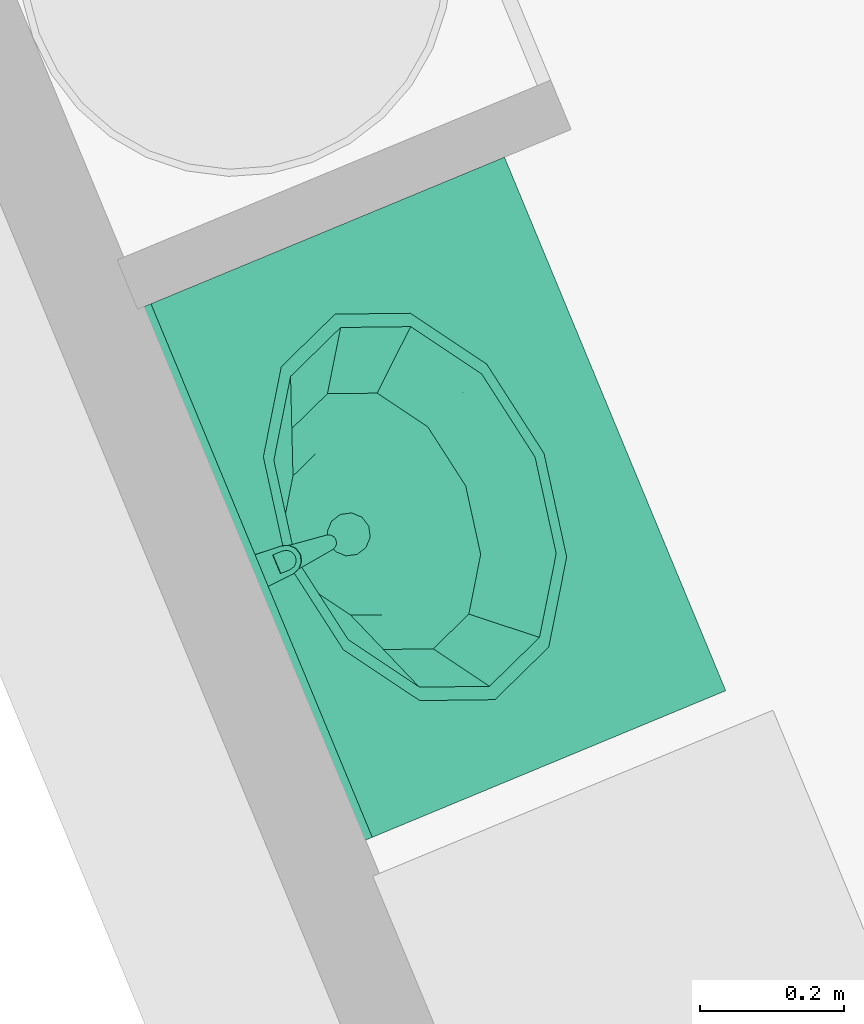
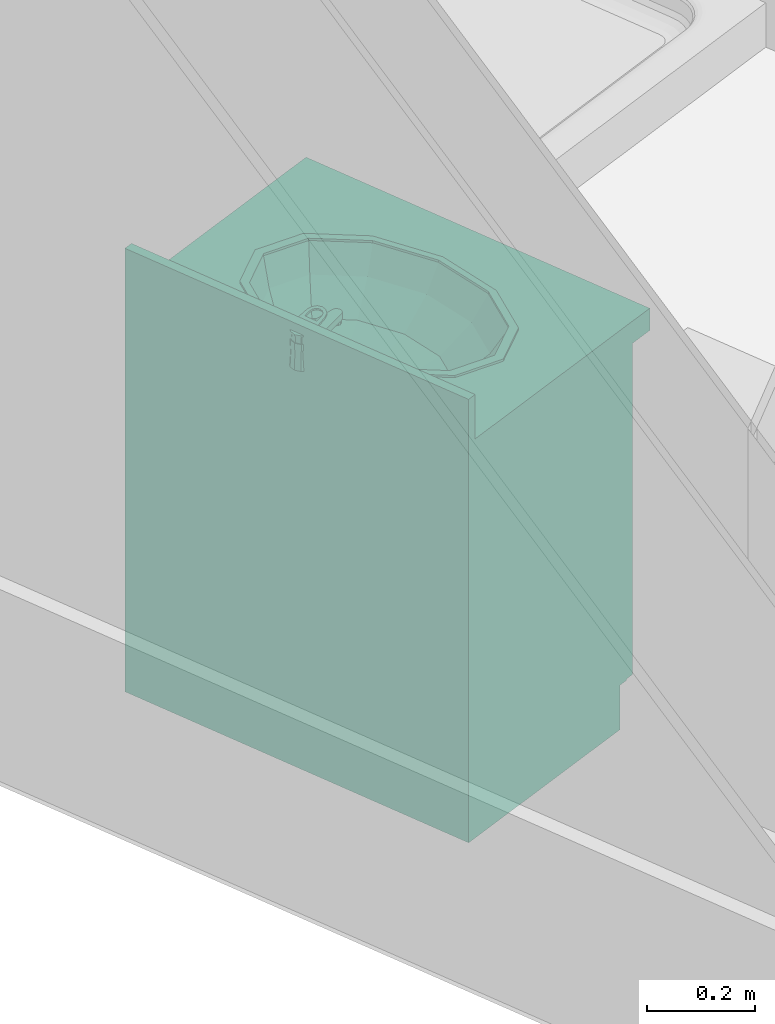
# One storey, part 80 of 119: 1 flow terminal.
"""IFC2X3 building model written with IfcOpenShell, lengths in metres."""

from ifc_helpers import new_model, entity, si_unit, converted_unit, derived_unit, money_unit, direction, frame, origin_with_axes, place, context, subcontext, project, spatial, open_shell, faceted_brep, surface_model, source, transform, mapped, type_object, element, save


model = new_model("IFC2X3")

# Units and contexts
model_context = context("Model", 3, precision=1e-05, world=origin_with_axes(), true_north=direction((0.0, 1.0)))
body_context = subcontext(model_context, "Body", "Model", "MODEL_VIEW")
ifc_project = project(units=[si_unit("LENGTHUNIT", "METRE"), si_unit("AREAUNIT", "SQUARE_METRE"), si_unit("VOLUMEUNIT", "CUBIC_METRE"), converted_unit("PLANEANGLEUNIT", "DEGREE", entity("IfcPlaneAngleMeasure", 0.0174532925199), si_unit("PLANEANGLEUNIT", "RADIAN"), dimensions=[0, 0, 0, 0, 0, 0, 0]), si_unit("SOLIDANGLEUNIT", "STERADIAN"), money_unit("EUR"), converted_unit("TIMEUNIT", "Year", entity("IfcTimeMeasure", 31556926.0), si_unit("TIMEUNIT", "SECOND"), dimensions=[0, 0, 1, 0, 0, 0, 0]), si_unit("MASSUNIT", "GRAM", prefix="KILO"), si_unit("THERMODYNAMICTEMPERATUREUNIT", "DEGREE_CELSIUS"), si_unit("LUMINOUSINTENSITYUNIT", "LUMEN"), si_unit("ENERGYUNIT", "JOULE", prefix="MEGA"), derived_unit("THERMALCONDUCTANCEUNIT", [(si_unit("POWERUNIT", "WATT"), 1), (si_unit("LENGTHUNIT", "METRE"), -1), (si_unit("THERMODYNAMICTEMPERATUREUNIT", "KELVIN"), -1)]), derived_unit("SPECIFICHEATCAPACITYUNIT", [(si_unit("ENERGYUNIT", "JOULE"), 1), (si_unit("MASSUNIT", "GRAM", prefix="KILO"), -1), (si_unit("THERMODYNAMICTEMPERATUREUNIT", "KELVIN"), -1)]), derived_unit("MASSDENSITYUNIT", [(si_unit("MASSUNIT", "GRAM", prefix="KILO"), 1), (si_unit("VOLUMEUNIT", "CUBIC_METRE"), -1)])], contexts=[model_context])

# Site, building, storey
site_placement = place(None, origin_with_axes())
site = spatial("IfcSite", under=ifc_project, at=site_placement, Name="Site", CompositionType="ELEMENT")
building_placement = place(site_placement, origin_with_axes())
building = spatial("IfcBuilding", under=site, at=building_placement, Name="Bâtiment", CompositionType="ELEMENT")
storey_placement = place(building_placement, origin_with_axes())
storey = spatial("IfcBuildingStorey", under=building, at=storey_placement, Name="Rez-de-chaussée", CompositionType="ELEMENT", Elevation=0.0)

# Flow terminal
sanitary_terminal_type = type_object("IfcSanitaryTerminalType", Name="Lavabo sur meuble 23", PredefinedType="NOTDEFINED")
shared_shape = source(origin_with_axes(), body_context, "Body", "SurfaceModel", [
    faceted_brep([(0.0, 0.09, 0.0), (0.8, 0.09, 0.0), (0.8, 0.09, 0.1), (0.0, 0.09, 0.1), (0.0, 0.55, 0.0), (0.8, 0.55, 0.0), (0.8, 0.55, 0.1), (0.0, 0.55, 0.1)], [[[0, 1, 2, 3]], [[0, 4, 5, 1]], [[1, 5, 6, 2]], [[3, 2, 6, 7]], [[4, 0, 3, 7]], [[5, 4, 7, 6]]]),
    faceted_brep([(0.0, 0.07, 0.1), (0.02, 0.07, 0.1), (0.02, 0.07, 0.12), (0.0, 0.07, 0.12), (0.0, 0.55, 0.1), (0.02, 0.55, 0.1), (0.78, 0.55, 0.1), (0.8, 0.55, 0.1), (0.8, 0.07, 0.1), (0.78, 0.07, 0.1), (0.78, 0.07, 0.12), (0.8, 0.07, 0.12), (0.8, 0.55, 0.12), (0.78, 0.55, 0.12), (0.02, 0.55, 0.12), (0.0, 0.55, 0.12)], [[[0, 1, 2, 3]], [[0, 4, 5, 6, 7, 8, 9, 1]], [[1, 9, 10, 2]], [[3, 2, 10, 11, 12, 13, 14, 15]], [[4, 0, 3, 15]], [[5, 4, 15, 14]], [[6, 5, 14, 13]], [[7, 6, 13, 12]], [[8, 7, 12, 11]], [[9, 8, 11, 10]]]),
    faceted_brep([(0.0, 0.07, 0.12), (0.02, 0.07, 0.12), (0.02, 0.07, 0.85), (0.0, 0.07, 0.85), (0.0, 0.55, 0.12), (0.8, 0.55, 0.12), (0.8, 0.07, 0.12), (0.78, 0.07, 0.12), (0.78, 0.53, 0.12), (0.02, 0.53, 0.12), (0.02, 0.53, 0.85), (0.78, 0.53, 0.85), (0.78, 0.07, 0.85), (0.8, 0.07, 0.85), (0.8, 0.55, 0.85), (0.0, 0.55, 0.85)], [[[0, 1, 2, 3]], [[0, 4, 5, 6, 7, 8, 9, 1]], [[1, 9, 10, 2]], [[3, 2, 10, 11, 12, 13, 14, 15]], [[4, 0, 3, 15]], [[5, 4, 15, 14]], [[6, 5, 14, 13]], [[7, 6, 13, 12]], [[8, 7, 12, 11]], [[9, 8, 11, 10]]]),
    faceted_brep([(0.78, 0.07, 0.323333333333), (0.78, 0.53, 0.323333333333), (0.78, 0.53, 0.343333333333), (0.78, 0.07, 0.343333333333), (0.02, 0.07, 0.323333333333), (0.02, 0.53, 0.323333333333), (0.02, 0.53, 0.343333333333), (0.02, 0.07, 0.343333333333)], [[[0, 1, 2, 3]], [[0, 4, 5, 1]], [[1, 5, 6, 2]], [[3, 2, 6, 7]], [[4, 0, 3, 7]], [[5, 4, 7, 6]]]),
    faceted_brep([(0.78, 0.07, 0.566666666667), (0.78, 0.53, 0.566666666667), (0.78, 0.53, 0.586666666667), (0.78, 0.07, 0.586666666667), (0.02, 0.07, 0.566666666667), (0.02, 0.53, 0.566666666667), (0.02, 0.53, 0.586666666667), (0.02, 0.07, 0.586666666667)], [[[0, 1, 2, 3]], [[0, 4, 5, 1]], [[1, 5, 6, 2]], [[3, 2, 6, 7]], [[4, 0, 3, 7]], [[5, 4, 7, 6]]]),
    faceted_brep([(0.0, 0.55, 0.85), (0.8, 0.55, 0.85), (0.8, 0.0, 0.85), (0.0, 0.0, 0.85), (0.535, 0.144115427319, 0.85), (0.633826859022, 0.21, 0.85), (0.67, 0.3, 0.85), (0.633826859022, 0.39, 0.85), (0.535, 0.455884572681, 0.85), (0.4, 0.48, 0.85), (0.265, 0.455884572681, 0.85), (0.166173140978, 0.39, 0.85), (0.13, 0.3, 0.85), (0.166173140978, 0.21, 0.85), (0.265, 0.144115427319, 0.85), (0.4, 0.12, 0.85), (0.0, 0.55, 0.9), (0.8, 0.55, 0.9), (0.8, 0.0, 0.9), (0.0, 0.0, 0.9), (0.535, 0.144115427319, 0.9), (0.633826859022, 0.21, 0.9), (0.67, 0.3, 0.9), (0.633826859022, 0.39, 0.9), (0.535, 0.455884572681, 0.9), (0.4, 0.48, 0.9), (0.265, 0.455884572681, 0.9), (0.166173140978, 0.39, 0.9), (0.13, 0.3, 0.9), (0.166173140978, 0.21, 0.9), (0.265, 0.144115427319, 0.9), (0.4, 0.12, 0.9)], [[[0, 1, 2, 3], [4, 5, 6, 7, 8, 9, 10, 11, 12, 13, 14, 15]], [[0, 16, 17, 1]], [[1, 17, 18, 2]], [[2, 18, 19, 3]], [[3, 19, 16, 0]], [[20, 21, 5, 4]], [[21, 22, 6, 5]], [[22, 23, 7, 6]], [[23, 24, 8, 7]], [[24, 25, 9, 8]], [[25, 26, 10, 9]], [[26, 27, 11, 10]], [[27, 28, 12, 11]], [[28, 29, 13, 12]], [[29, 30, 14, 13]], [[30, 31, 15, 14]], [[31, 20, 4, 15]], [[18, 17, 16, 19], [24, 23, 22, 21, 20, 31, 30, 29, 28, 27, 26, 25]]]),
    faceted_brep([(0.0, 0.53, 0.9), (0.8, 0.53, 0.9), (0.8, 0.53, 1.0), (0.0, 0.53, 1.0), (0.0, 0.55, 0.9), (0.8, 0.55, 0.9), (0.8, 0.55, 1.0), (0.0, 0.55, 1.0)], [[[0, 1, 2, 3]], [[0, 4, 5, 1]], [[1, 5, 6, 2]], [[3, 2, 6, 7]], [[4, 0, 3, 7]], [[5, 4, 7, 6]]]),
    faceted_brep([(0.689, 0.3, 0.905), (0.689, 0.3, 0.9), (0.650281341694, 0.396691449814, 0.9), (0.650281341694, 0.396691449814, 0.905), (0.650281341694, 0.203308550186, 0.905), (0.650281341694, 0.203308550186, 0.9), (0.5445, 0.132525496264, 0.9), (0.4, 0.106617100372, 0.9), (0.2555, 0.132525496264, 0.9), (0.149718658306, 0.203308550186, 0.9), (0.111, 0.3, 0.9), (0.149718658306, 0.396691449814, 0.9), (0.2555, 0.467474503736, 0.9), (0.4, 0.493382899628, 0.9), (0.5445, 0.467474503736, 0.9), (0.669, 0.3, 0.9), (0.632960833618, 0.39, 0.9), (0.5345, 0.455884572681, 0.9), (0.4, 0.48, 0.9), (0.2655, 0.455884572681, 0.9), (0.167039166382, 0.39, 0.9), (0.131, 0.3, 0.9), (0.167039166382, 0.21, 0.9), (0.2655, 0.144115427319, 0.9), (0.4, 0.12, 0.9), (0.5345, 0.144115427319, 0.9), (0.632960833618, 0.21, 0.9), (0.5445, 0.467474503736, 0.905), (0.4, 0.493382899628, 0.905), (0.2555, 0.467474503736, 0.905), (0.149718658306, 0.396691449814, 0.905), (0.111, 0.3, 0.905), (0.149718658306, 0.203308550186, 0.905), (0.2555, 0.132525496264, 0.905), (0.4, 0.106617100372, 0.905), (0.5445, 0.132525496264, 0.905), (0.669, 0.3, 0.905), (0.632960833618, 0.21, 0.905), (0.5345, 0.144115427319, 0.905), (0.4, 0.12, 0.905), (0.2655, 0.144115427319, 0.905), (0.167039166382, 0.21, 0.905), (0.131, 0.3, 0.905), (0.167039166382, 0.39, 0.905), (0.2655, 0.455884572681, 0.905), (0.4, 0.48, 0.905), (0.5345, 0.455884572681, 0.905), (0.632960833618, 0.39, 0.905)], [[[0, 1, 2, 3]], [[4, 5, 1, 0]], [[1, 5, 6, 7, 8, 9, 10, 11, 12, 13, 14, 2], [15, 16, 17, 18, 19, 20, 21, 22, 23, 24, 25, 26]], [[3, 2, 14, 27]], [[0, 3, 27, 28, 29, 30, 31, 32, 33, 34, 35, 4], [36, 37, 38, 39, 40, 41, 42, 43, 44, 45, 46, 47]], [[35, 6, 5, 4]], [[34, 7, 6, 35]], [[33, 8, 7, 34]], [[32, 9, 8, 33]], [[31, 10, 9, 32]], [[30, 11, 10, 31]], [[29, 12, 11, 30]], [[28, 13, 12, 29]], [[27, 14, 13, 28]], [[47, 16, 15, 36]], [[46, 17, 16, 47]], [[45, 18, 17, 46]], [[44, 19, 18, 45]], [[43, 20, 19, 44]], [[42, 21, 20, 43]], [[41, 22, 21, 42]], [[40, 23, 22, 41]], [[39, 24, 23, 40]], [[38, 25, 24, 39]], [[37, 26, 25, 38]], [[36, 15, 26, 37]]]),
    surface_model("IfcShellBasedSurfaceModel", [(0.4, 0.48, 0.9), (0.4, 0.48, 0.848), (0.52105, 0.458296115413, 0.848), (0.5345, 0.455884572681, 0.9), (0.2655, 0.455884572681, 0.9), (0.27895, 0.458296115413, 0.848), (0.609664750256, 0.399, 0.848), (0.632960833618, 0.39, 0.9), (0.167039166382, 0.39, 0.9), (0.190335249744, 0.399, 0.848), (0.6421, 0.318, 0.848), (0.669, 0.3, 0.9), (0.131, 0.3, 0.9), (0.1579, 0.318, 0.848), (0.609664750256, 0.237, 0.848), (0.632960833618, 0.21, 0.9), (0.167039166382, 0.21, 0.9), (0.190335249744, 0.237, 0.848), (0.52105, 0.177703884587, 0.848), (0.5345, 0.144115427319, 0.9), (0.2655, 0.144115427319, 0.9), (0.27895, 0.177703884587, 0.848), (0.4, 0.156, 0.848), (0.4, 0.12, 0.9)], [open_shell([[[0, 1, 2, 3]], [[4, 5, 1, 0]], [[3, 2, 6, 7]], [[8, 9, 5, 4]], [[7, 6, 10, 11]], [[12, 13, 9, 8]], [[11, 10, 14, 15]], [[16, 17, 13, 12]], [[15, 14, 18, 19]], [[20, 21, 17, 16]], [[19, 18, 22, 23]], [[23, 22, 21, 20]]])]),
    surface_model("IfcShellBasedSurfaceModel", [(0.4, 0.48, 0.848), (0.4, 0.48, 0.796), (0.4956295, 0.462853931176, 0.796), (0.52105, 0.458296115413, 0.848), (0.27895, 0.458296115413, 0.848), (0.3043705, 0.462853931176, 0.796), (0.565635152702, 0.41601, 0.796), (0.609664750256, 0.399, 0.848), (0.190335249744, 0.399, 0.848), (0.234364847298, 0.41601, 0.796), (0.591259, 0.35202, 0.796), (0.6421, 0.318, 0.848), (0.1579, 0.318, 0.848), (0.208741, 0.35202, 0.796), (0.565635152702, 0.28803, 0.796), (0.609664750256, 0.237, 0.848), (0.190335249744, 0.237, 0.848), (0.234364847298, 0.28803, 0.796), (0.4956295, 0.241186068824, 0.796), (0.52105, 0.177703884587, 0.848), (0.27895, 0.177703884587, 0.848), (0.3043705, 0.241186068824, 0.796), (0.4, 0.22404, 0.796), (0.4, 0.156, 0.848)], [open_shell([[[0, 1, 2, 3]], [[4, 5, 1, 0]], [[3, 2, 6, 7]], [[8, 9, 5, 4]], [[7, 6, 10, 11]], [[12, 13, 9, 8]], [[11, 10, 14, 15]], [[16, 17, 13, 12]], [[15, 14, 18, 19]], [[20, 21, 17, 16]], [[19, 18, 22, 23]], [[23, 22, 21, 20]]])]),
    surface_model("IfcShellBasedSurfaceModel", [(0.4, 0.48, 0.796), (0.4, 0.48, 0.77), (0.460246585, 0.469197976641, 0.77), (0.4956295, 0.462853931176, 0.796), (0.3043705, 0.462853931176, 0.796), (0.339753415, 0.469197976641, 0.77), (0.504350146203, 0.4396863, 0.77), (0.565635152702, 0.41601, 0.796), (0.234364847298, 0.41601, 0.796), (0.295649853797, 0.4396863, 0.77), (0.52049317, 0.3993726, 0.77), (0.591259, 0.35202, 0.796), (0.208741, 0.35202, 0.796), (0.27950683, 0.3993726, 0.77), (0.504350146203, 0.3590589, 0.77), (0.565635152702, 0.28803, 0.796), (0.234364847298, 0.28803, 0.796), (0.295649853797, 0.3590589, 0.77), (0.460246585, 0.329547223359, 0.77), (0.4956295, 0.241186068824, 0.796), (0.3043705, 0.241186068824, 0.796), (0.339753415, 0.329547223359, 0.77), (0.4, 0.3187452, 0.77), (0.4, 0.22404, 0.796)], [open_shell([[[0, 1, 2, 3]], [[4, 5, 1, 0]], [[3, 2, 6, 7]], [[8, 9, 5, 4]], [[7, 6, 10, 11]], [[12, 13, 9, 8]], [[11, 10, 14, 15]], [[16, 17, 13, 12]], [[15, 14, 18, 19]], [[20, 21, 17, 16]], [[19, 18, 22, 23]], [[23, 22, 21, 20]]])]),
    surface_model("IfcShellBasedSurfaceModel", [(0.4, 0.48, 0.77), (0.415, 0.425353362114, 0.763), (0.460246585, 0.469197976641, 0.77), (0.4, 0.4293726, 0.763), (0.425980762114, 0.4143726, 0.763), (0.339753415, 0.469197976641, 0.77), (0.504350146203, 0.4396863, 0.77), (0.385, 0.425353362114, 0.763), (0.43, 0.3993726, 0.763), (0.295649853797, 0.4396863, 0.77), (0.52049317, 0.3993726, 0.77), (0.374019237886, 0.4143726, 0.763), (0.425980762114, 0.3843726, 0.763), (0.27950683, 0.3993726, 0.77), (0.504350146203, 0.3590589, 0.77), (0.37, 0.3993726, 0.763), (0.415, 0.373391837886, 0.763), (0.295649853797, 0.3590589, 0.77), (0.460246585, 0.329547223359, 0.77), (0.374019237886, 0.3843726, 0.763), (0.4, 0.3693726, 0.763), (0.339753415, 0.329547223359, 0.77), (0.4, 0.3187452, 0.77), (0.385, 0.373391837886, 0.763)], [open_shell([[[0, 1, 2]], [[0, 3, 1]], [[2, 1, 4]], [[5, 3, 0]], [[2, 4, 6]], [[5, 7, 3]], [[6, 4, 8]], [[9, 7, 5]], [[6, 8, 10]], [[9, 11, 7]], [[10, 8, 12]], [[13, 11, 9]], [[10, 12, 14]], [[13, 15, 11]], [[14, 12, 16]], [[17, 15, 13]], [[14, 16, 18]], [[17, 19, 15]], [[18, 16, 20]], [[21, 19, 17]], [[18, 20, 22]], [[21, 23, 19]], [[22, 20, 23]], [[22, 23, 21]]])]),
    surface_model("IfcShellBasedSurfaceModel", [(0.43, 0.3993726, 0.763), (0.43, 0.3993726, 0.758), (0.425980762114, 0.4143726, 0.758), (0.425980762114, 0.4143726, 0.763), (0.425980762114, 0.3843726, 0.763), (0.425980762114, 0.3843726, 0.758), (0.415, 0.373391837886, 0.758), (0.4, 0.3693726, 0.758), (0.385, 0.373391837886, 0.758), (0.374019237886, 0.3843726, 0.758), (0.37, 0.3993726, 0.758), (0.374019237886, 0.4143726, 0.758), (0.385, 0.425353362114, 0.758), (0.4, 0.4293726, 0.758), (0.415, 0.425353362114, 0.758), (0.415, 0.425353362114, 0.763), (0.415, 0.373391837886, 0.763), (0.4, 0.3693726, 0.763), (0.385, 0.373391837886, 0.763), (0.374019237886, 0.3843726, 0.763), (0.37, 0.3993726, 0.763), (0.374019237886, 0.4143726, 0.763), (0.385, 0.425353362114, 0.763), (0.4, 0.4293726, 0.763)], [open_shell([[[0, 1, 2, 3]], [[4, 5, 1, 0]], [[1, 5, 6, 7, 8, 9, 10, 11, 12, 13, 14, 2]], [[3, 2, 14, 15]], [[16, 6, 5, 4]], [[17, 7, 6, 16]], [[18, 8, 7, 17]], [[19, 9, 8, 18]], [[20, 10, 9, 19]], [[21, 11, 10, 20]], [[22, 12, 11, 21]], [[23, 13, 12, 22]], [[15, 14, 13, 23]]])]),
    faceted_brep([(0.4125, 0.554150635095, 0.9), (0.4, 0.5575, 0.9), (0.4, 0.553701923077, 0.975961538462), (0.410587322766, 0.550837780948, 0.976507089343), (0.421650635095, 0.545, 0.9), (0.425, 0.5325, 0.9), (0.421650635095, 0.52, 0.9), (0.4125, 0.510849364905, 0.9), (0.4, 0.5075, 0.9), (0.3875, 0.510849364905, 0.9), (0.378349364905, 0.52, 0.9), (0.375, 0.5325, 0.9), (0.378349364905, 0.545, 0.9), (0.3875, 0.554150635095, 0.9), (0.389412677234, 0.550837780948, 0.976507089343), (0.381726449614, 0.543050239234, 0.977990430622), (0.379, 0.5325, 0.98), (0.381899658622, 0.522049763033, 0.981990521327), (0.389585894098, 0.514462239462, 0.983435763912), (0.4, 0.511698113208, 0.983962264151), (0.410414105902, 0.514462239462, 0.983435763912), (0.418100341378, 0.522049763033, 0.981990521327), (0.421, 0.5325, 0.98), (0.418273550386, 0.543050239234, 0.977990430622)], [[[0, 1, 2, 3]], [[0, 4, 5, 6, 7, 8, 9, 10, 11, 12, 13, 1]], [[1, 13, 14, 2]], [[3, 2, 14, 15, 16, 17, 18, 19, 20, 21, 22, 23]], [[4, 0, 3, 23]], [[5, 4, 23, 22]], [[6, 5, 22, 21]], [[7, 6, 21, 20]], [[8, 7, 20, 19]], [[9, 8, 19, 18]], [[10, 9, 18, 17]], [[11, 10, 17, 16]], [[12, 11, 16, 15]], [[13, 12, 15, 14]]]),
    faceted_brep([(0.409, 0.4295, 0.935), (0.407794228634, 0.434, 0.935), (0.407794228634, 0.434, 0.945), (0.409, 0.4295, 0.945), (0.407794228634, 0.425, 0.935), (0.4045, 0.421705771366, 0.935), (0.4, 0.4205, 0.935), (0.3955, 0.421705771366, 0.935), (0.392205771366, 0.425, 0.935), (0.391, 0.4295, 0.935), (0.392205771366, 0.434, 0.935), (0.3955, 0.437294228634, 0.935), (0.4, 0.4385, 0.935), (0.4045, 0.437294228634, 0.935), (0.4045, 0.437294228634, 0.945), (0.4, 0.4385, 0.945), (0.3955, 0.437294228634, 0.945), (0.392205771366, 0.434, 0.945), (0.391, 0.4295, 0.945), (0.392205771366, 0.425, 0.945), (0.3955, 0.421705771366, 0.945), (0.4, 0.4205, 0.945), (0.4045, 0.421705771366, 0.945), (0.407794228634, 0.425, 0.945)], [[[0, 1, 2, 3]], [[0, 4, 5, 6, 7, 8, 9, 10, 11, 12, 13, 1]], [[1, 13, 14, 2]], [[3, 2, 14, 15, 16, 17, 18, 19, 20, 21, 22, 23]], [[4, 0, 3, 23]], [[5, 4, 23, 22]], [[6, 5, 22, 21]], [[7, 6, 21, 20]], [[8, 7, 20, 19]], [[9, 8, 19, 18]], [[10, 9, 18, 17]], [[11, 10, 17, 16]], [[12, 11, 16, 15]], [[13, 12, 15, 14]]]),
    faceted_brep([(0.387128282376, 0.552756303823, 0.96), (0.378272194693, 0.54269320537, 0.96), (0.3761946, 0.5294501, 0.96), (0.389088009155, 0.428111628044, 0.96), (0.390971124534, 0.423216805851, 0.96), (0.394906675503, 0.419750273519, 0.96), (0.400000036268, 0.41850003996, 0.96), (0.405093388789, 0.419750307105, 0.96), (0.409028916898, 0.423216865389, 0.96), (0.410912, 0.4281117, 0.96), (0.423805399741, 0.529450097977, 0.96), (0.421727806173, 0.542693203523, 0.96), (0.412871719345, 0.552756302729, 0.96), (0.40000000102, 0.556499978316, 0.96), (0.411, 0.551552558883, 0.96), (0.419052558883, 0.5435, 0.96), (0.422, 0.5325, 0.96), (0.419052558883, 0.5215, 0.96), (0.411, 0.513447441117, 0.96), (0.4, 0.5105, 0.96), (0.389, 0.513447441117, 0.96), (0.380947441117, 0.5215, 0.96), (0.378, 0.5325, 0.96), (0.380947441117, 0.5435, 0.96), (0.389, 0.551552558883, 0.96), (0.4, 0.5545, 0.96), (0.378272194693, 0.54269320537, 0.945), (0.387128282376, 0.552756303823, 0.945), (0.3761946, 0.5294501, 0.945), (0.389088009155, 0.428111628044, 0.945), (0.390971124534, 0.423216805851, 0.945), (0.394906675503, 0.419750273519, 0.945), (0.400000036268, 0.41850003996, 0.945), (0.405093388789, 0.419750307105, 0.945), (0.409028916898, 0.423216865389, 0.945), (0.410912, 0.4281117, 0.945), (0.423805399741, 0.529450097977, 0.945), (0.421727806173, 0.542693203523, 0.945), (0.412871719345, 0.552756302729, 0.945), (0.40000000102, 0.556499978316, 0.945), (0.411375, 0.552202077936, 0.945), (0.419702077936, 0.543875, 0.945), (0.42275, 0.5325, 0.945), (0.419702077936, 0.521125, 0.945), (0.411375, 0.512797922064, 0.945), (0.4, 0.50975, 0.945), (0.388625, 0.512797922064, 0.945), (0.380297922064, 0.521125, 0.945), (0.37725, 0.5325, 0.945), (0.380297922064, 0.543875, 0.945), (0.388625, 0.552202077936, 0.945), (0.4, 0.55525, 0.945)], [[[0, 1, 2, 3, 4, 5, 6, 7, 8, 9, 10, 11, 12, 13], [14, 15, 16, 17, 18, 19, 20, 21, 22, 23, 24, 25]], [[26, 1, 0, 27]], [[28, 2, 1, 26]], [[29, 3, 2, 28]], [[30, 4, 3, 29]], [[31, 5, 4, 30]], [[32, 6, 5, 31]], [[33, 7, 6, 32]], [[34, 8, 7, 33]], [[35, 9, 8, 34]], [[36, 10, 9, 35]], [[37, 11, 10, 36]], [[38, 12, 11, 37]], [[39, 13, 12, 38]], [[27, 0, 13, 39]], [[40, 41, 15, 14]], [[41, 42, 16, 15]], [[42, 43, 17, 16]], [[43, 44, 18, 17]], [[44, 45, 19, 18]], [[20, 19, 45, 46]], [[21, 20, 46, 47]], [[22, 21, 47, 48]], [[23, 22, 48, 49]], [[24, 23, 49, 50]], [[50, 51, 25, 24]], [[51, 40, 14, 25]], [[32, 31, 30, 29, 28, 26, 27, 39, 38, 37, 36, 35, 34, 33], [44, 43, 42, 41, 40, 51, 50, 49, 48, 47, 46, 45]]]),
    faceted_brep([(0.423893, 0.53080743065, 0.980322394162), (0.421296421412, 0.543274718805, 0.977947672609), (0.421296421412, 0.544023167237, 0.981877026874), (0.423893, 0.531555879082, 0.984251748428), (0.420945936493, 0.490663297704, 0.987968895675), (0.417663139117, 0.480985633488, 0.989812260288), (0.410061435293, 0.474036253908, 0.991135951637), (0.399999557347, 0.47151438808, 0.991616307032), (0.389937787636, 0.474036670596, 0.991135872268), (0.382336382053, 0.480986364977, 0.989812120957), (0.379054, 0.490664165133, 0.987968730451), (0.376106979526, 0.530807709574, 0.980322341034), (0.378703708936, 0.543274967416, 0.977947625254), (0.38752831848, 0.552591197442, 0.976173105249), (0.400000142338, 0.556031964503, 0.975517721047), (0.41247192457, 0.552591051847, 0.976173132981), (0.414, 0.506959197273, 0.984864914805), (0.386, 0.506959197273, 0.984864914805), (0.386, 0.492143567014, 0.987686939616), (0.387875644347, 0.485267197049, 0.988996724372), (0.393, 0.480233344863, 0.989955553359), (0.4, 0.478390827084, 0.990306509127), (0.407, 0.480233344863, 0.989955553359), (0.412124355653, 0.485267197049, 0.988996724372), (0.414, 0.492143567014, 0.987686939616), (0.41247192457, 0.553339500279, 0.980102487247), (0.400000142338, 0.556780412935, 0.979447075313), (0.38752831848, 0.553339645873, 0.980102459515), (0.378703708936, 0.544023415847, 0.98187697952), (0.376106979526, 0.531556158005, 0.984251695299), (0.379054, 0.491412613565, 0.991898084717), (0.382336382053, 0.481734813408, 0.993741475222), (0.389937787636, 0.474785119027, 0.995065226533), (0.399999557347, 0.472262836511, 0.995545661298), (0.410061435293, 0.47478470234, 0.995065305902), (0.417663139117, 0.48173408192, 0.993741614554), (0.420945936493, 0.491411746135, 0.991898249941), (0.414, 0.507707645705, 0.988794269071), (0.414, 0.492892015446, 0.991616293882), (0.412124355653, 0.486015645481, 0.992926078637), (0.407, 0.480981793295, 0.993884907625), (0.4, 0.479139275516, 0.994235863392), (0.393, 0.480981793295, 0.993884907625), (0.387875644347, 0.486015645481, 0.992926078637), (0.386, 0.492892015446, 0.991616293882), (0.386, 0.507707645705, 0.988794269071)], [[[0, 1, 2, 3]], [[0, 4, 5, 6, 7, 8, 9, 10, 11, 12, 13, 14, 15, 1], [16, 17, 18, 19, 20, 21, 22, 23, 24]], [[1, 15, 25, 2]], [[3, 2, 25, 26, 27, 28, 29, 30, 31, 32, 33, 34, 35, 36], [37, 38, 39, 40, 41, 42, 43, 44, 45]], [[4, 0, 3, 36]], [[5, 4, 36, 35]], [[6, 5, 35, 34]], [[7, 6, 34, 33]], [[8, 7, 33, 32]], [[9, 8, 32, 31]], [[10, 9, 31, 30]], [[11, 10, 30, 29]], [[12, 11, 29, 28]], [[13, 12, 28, 27]], [[14, 13, 27, 26]], [[15, 14, 26, 25]], [[17, 16, 37, 45]], [[18, 17, 45, 44]], [[19, 18, 44, 43]], [[20, 19, 43, 42]], [[21, 20, 42, 41]], [[22, 21, 41, 40]], [[23, 22, 40, 39]], [[24, 23, 39, 38]], [[16, 24, 38, 37]]]),
    faceted_brep([(0.0015, 0.07, 0.1015), (0.3985, 0.07, 0.1015), (0.3985, 0.05, 0.1015), (0.0015, 0.05, 0.1015), (0.0015, 0.07, 0.8485), (0.3985, 0.07, 0.8485), (0.3985, 0.05, 0.8485), (0.0015, 0.05, 0.8485)], [[[0, 1, 2, 3]], [[0, 4, 5, 1]], [[1, 5, 6, 2]], [[3, 2, 6, 7]], [[4, 0, 3, 7]], [[5, 4, 7, 6]]]),
    faceted_brep([(0.358892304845, 0.05, 0.7855), (0.3545, 0.05, 0.781107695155), (0.3485, 0.05, 0.7795), (0.3425, 0.05, 0.781107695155), (0.338107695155, 0.05, 0.7855), (0.3365, 0.05, 0.7915), (0.338107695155, 0.05, 0.7975), (0.3425, 0.05, 0.801892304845), (0.3485, 0.05, 0.8035), (0.3545, 0.05, 0.801892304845), (0.358892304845, 0.05, 0.7975), (0.3605, 0.05, 0.7915), (0.358892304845, 0.025, 0.7855), (0.3545, 0.025, 0.781107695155), (0.3485, 0.025, 0.7795), (0.3425, 0.025, 0.781107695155), (0.338107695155, 0.025, 0.7855), (0.3365, 0.025, 0.7915), (0.338107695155, 0.025, 0.7975), (0.3425, 0.025, 0.801892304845), (0.3485, 0.025, 0.8035), (0.3545, 0.025, 0.801892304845), (0.358892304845, 0.025, 0.7975), (0.3605, 0.025, 0.7915)], [[[0, 1, 2, 3, 4, 5, 6, 7, 8, 9, 10, 11]], [[1, 0, 12, 13]], [[2, 1, 13, 14]], [[3, 2, 14, 15]], [[4, 3, 15, 16]], [[5, 4, 16, 17]], [[6, 5, 17, 18]], [[7, 6, 18, 19]], [[8, 7, 19, 20]], [[9, 8, 20, 21]], [[10, 9, 21, 22]], [[11, 10, 22, 23]], [[0, 11, 23, 12]], [[12, 23, 22, 21, 20, 19, 18, 17, 16, 15, 14, 13]]]),
    faceted_brep([(0.7985, 0.07, 0.1015), (0.7985, 0.05, 0.1015), (0.4015, 0.05, 0.1015), (0.4015, 0.07, 0.1015), (0.7985, 0.07, 0.8485), (0.7985, 0.05, 0.8485), (0.4015, 0.05, 0.8485), (0.4015, 0.07, 0.8485)], [[[0, 1, 2, 3]], [[4, 5, 1, 0]], [[1, 5, 6, 2]], [[3, 2, 6, 7]], [[0, 3, 7, 4]], [[7, 6, 5, 4]]]),
    faceted_brep([(0.441107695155, 0.05, 0.7855), (0.4395, 0.05, 0.7915), (0.441107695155, 0.05, 0.7975), (0.4455, 0.05, 0.801892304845), (0.4515, 0.05, 0.8035), (0.4575, 0.05, 0.801892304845), (0.461892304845, 0.05, 0.7975), (0.4635, 0.05, 0.7915), (0.461892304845, 0.05, 0.7855), (0.4575, 0.05, 0.781107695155), (0.4515, 0.05, 0.7795), (0.4455, 0.05, 0.781107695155), (0.441107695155, 0.025, 0.7855), (0.4395, 0.025, 0.7915), (0.441107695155, 0.025, 0.7975), (0.4455, 0.025, 0.801892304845), (0.4515, 0.025, 0.8035), (0.4575, 0.025, 0.801892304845), (0.461892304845, 0.025, 0.7975), (0.4635, 0.025, 0.7915), (0.461892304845, 0.025, 0.7855), (0.4575, 0.025, 0.781107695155), (0.4515, 0.025, 0.7795), (0.4455, 0.025, 0.781107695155)], [[[0, 1, 2, 3, 4, 5, 6, 7, 8, 9, 10, 11]], [[0, 12, 13, 1]], [[1, 13, 14, 2]], [[2, 14, 15, 3]], [[3, 15, 16, 4]], [[4, 16, 17, 5]], [[5, 17, 18, 6]], [[6, 18, 19, 7]], [[7, 19, 20, 8]], [[8, 20, 21, 9]], [[9, 21, 22, 10]], [[10, 22, 23, 11]], [[11, 23, 12, 0]], [[12, 23, 22, 21, 20, 19, 18, 17, 16, 15, 14, 13]]]),
])
flow_terminal_placement = place(storey_placement, frame((-31.8073378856, -24.2921828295, 0.0), z_axis=(0.0, 0.0, 1.0), x_axis=(-0.38311254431, 0.923701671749, 0.0)))
element("IfcFlowTerminal", 1, at=flow_terminal_placement, inside=storey, type_object=sanitary_terminal_type, Name="MOB-002", ObjectType="SANITARY_TERMINAL", context=body_context, shape_type="MappedRepresentation", body=[
    mapped(shared_shape, transform((0.0, 0.0, 0.0))),
])

save(model, "model.ifc")
